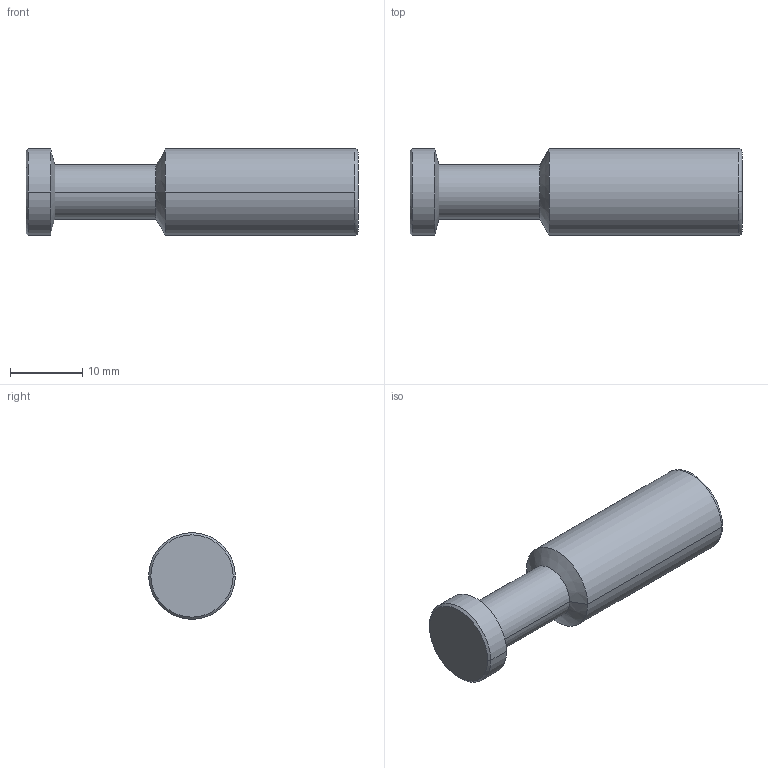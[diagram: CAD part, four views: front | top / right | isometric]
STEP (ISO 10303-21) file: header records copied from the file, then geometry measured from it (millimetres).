
FILE_DESCRIPTION (( 'STEP AP203' ), '1' );
FILE_NAME ('FP12-00.STEP', '2020-05-13T10:50:06', ( '' ), ( '' ), 'SwSTEP 2.0', 'SolidWorks 2019', '' );
FILE_SCHEMA (( 'CONFIG_CONTROL_DESIGN' ));
Length unit declared in the file: millimetre
Products named in the file (1): FP12-00
Bounding box: 46 x 12 x 12 mm (x, y, z)
Volume: 4163.4 mm3; surface area: 1826.7 mm2
Topology: 1 solids, 1 shells, 16 faces, 32 edges, 18 vertices
Faces by surface type: cylinder 6, cone 6, torus 2, plane 2
Entity records: 493 total; most frequent: DIRECTION 86, CARTESIAN_POINT 67, ORIENTED_EDGE 64, AXIS2_PLACEMENT_3D 37, EDGE_CURVE 32, CIRCLE 20, VERTEX_POINT 18, ADVANCED_FACE 16
